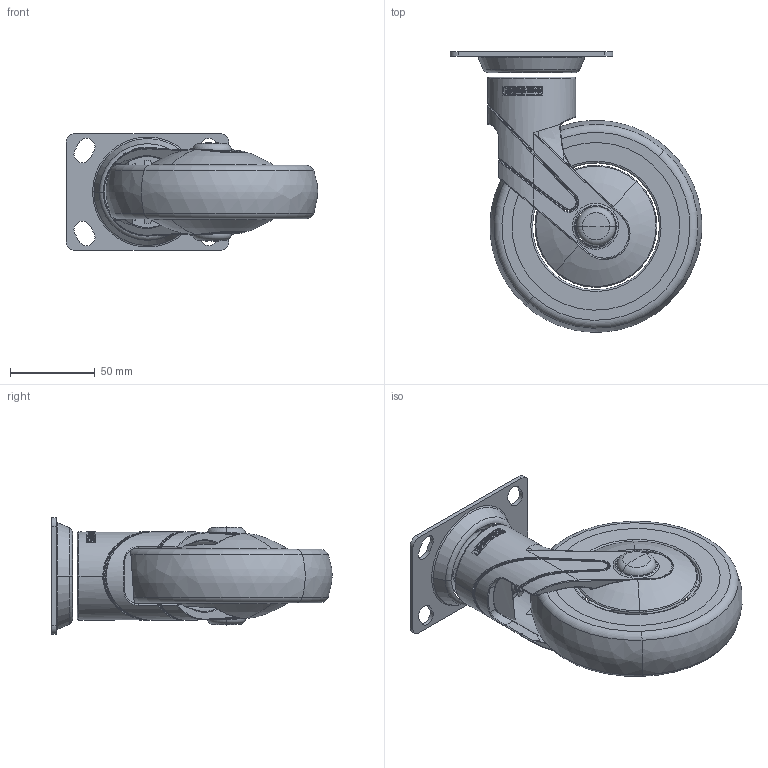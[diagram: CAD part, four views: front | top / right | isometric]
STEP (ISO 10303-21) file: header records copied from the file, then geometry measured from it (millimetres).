
FILE_DESCRIPTION((''),'2;1');
FILE_NAME('PRT0025','2026-03-31T17:38:56',('Administrator'),(''),'CREO PARAMETRIC BY PTC INC, 2022124','CREO PARAMETRIC BY PTC INC, 2022124','');
FILE_SCHEMA(('AUTOMOTIVE_DESIGN { 1 0 10303 214 1 1 1 1 }'));
Length unit declared in the file: millimetre
Products named in the file (1): PRT0025
Bounding box: 148.47 x 165.47 x 69 mm (x, y, z)
Surface area: 63985.9 mm2 (no closed solid volume)
Topology: 0 solids, 22 shells, 258 faces, 1124 edges, 859 vertices
Faces by surface type: cylinder 72, bspline 64, plane 49, torus 48, cone 15, sphere 8, extrusion 2
Entity records: 19558 total; most frequent: CARTESIAN_POINT 9553, ORIENTED_EDGE 1588, DIRECTION 1445, EDGE_CURVE 1112, VERTEX_POINT 859, AXIS2_PLACEMENT_3D 594, B_SPLINE_CURVE_WITH_KNOTS 470, CIRCLE 392
